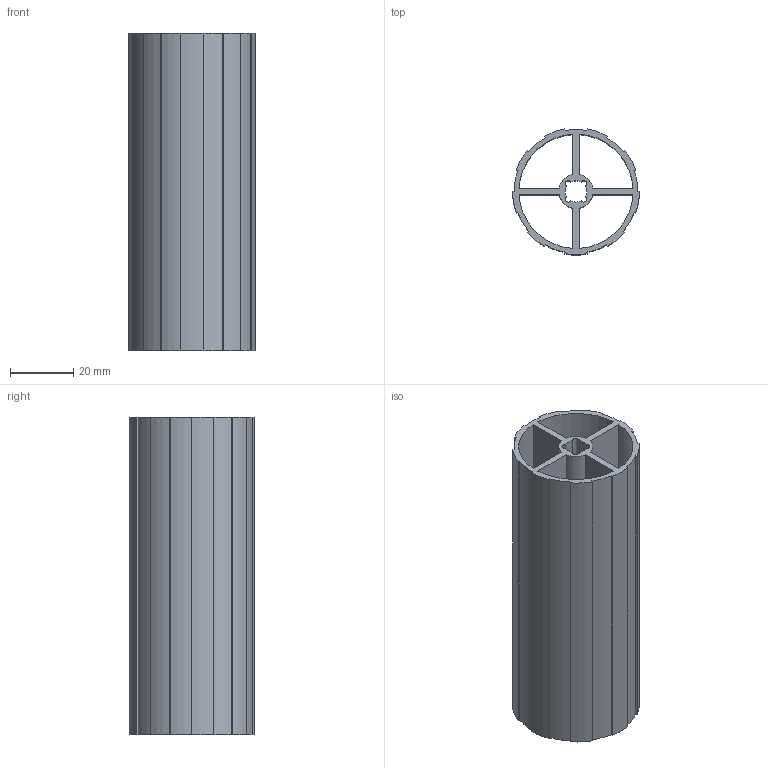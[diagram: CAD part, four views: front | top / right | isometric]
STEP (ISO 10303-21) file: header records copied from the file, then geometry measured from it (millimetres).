
FILE_DESCRIPTION(/* description */ (''),/* implementation_level */ '2;1');
FILE_NAME(/* name */ '\\AM-PUBLIC\Share\藍啟維\資料庫\Inventor資料庫\AM8-40C(訂製).stp',/* time_stamp */ '2021-01-28T11:57:49+08:00',/* author */ ('AM'),/* organization */ (''),/* preprocessor_version */ 'ST-DEVELOPER v16.5',/* originating_system */ 'Autodesk Inventor 2017',/* authorisation */ '');
FILE_SCHEMA (('AUTOMOTIVE_DESIGN { 1 0 10303 214 3 1 1 }'));
Length unit declared in the file: millimetre
Products named in the file (1): 零件111
Bounding box: 40 x 39.66 x 100 mm (x, y, z)
Volume: 35728.6 mm3; surface area: 39963.8 mm2
Topology: 1 solids, 1 shells, 62 faces, 180 edges, 120 vertices
Faces by surface type: cylinder 34, plane 28
Entity records: 2116 total; most frequent: DIRECTION 374, CARTESIAN_POINT 363, ORIENTED_EDGE 360, EDGE_CURVE 180, AXIS2_PLACEMENT_3D 131, VERTEX_POINT 120, LINE 112, VECTOR 112
